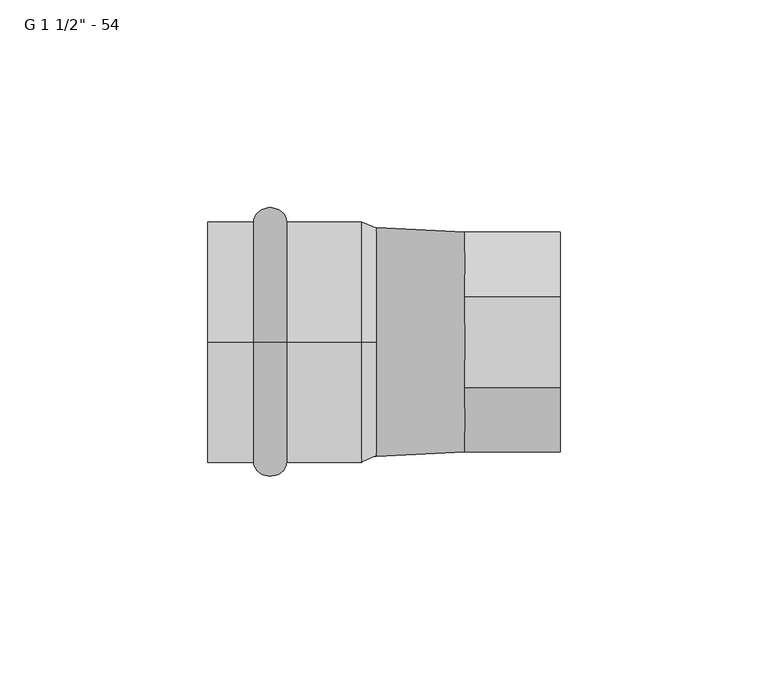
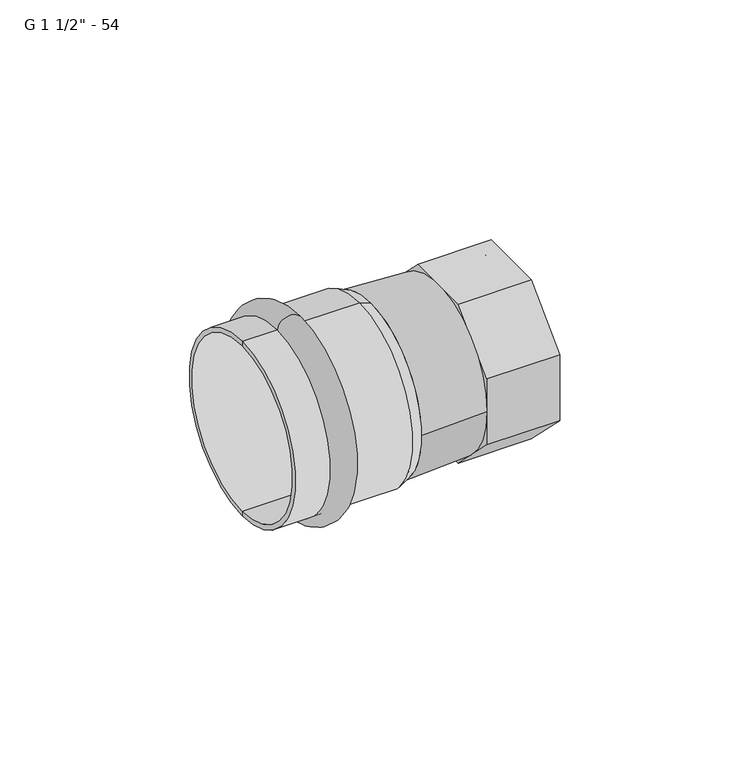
"""IFC4 building model written with IfcOpenShell, lengths in millimetres: pipe fitting geometry."""

import ifcopenshell
import ifcopenshell.guid

model = None  # the IFC model being written
_history = None  # IfcOwnerHistory: only IFC2X3 demands one
_inside = {}  # id of a spatial element -> (the spatial element, [elements in it])
_under = {}  # id of a project, library or spatial element -> (it, [spatial elements below it])
_declared = {}  # id of a project -> (the project, [libraries it declares])
_typed = {}  # id of a type object -> (the type object, [elements of that type])
_made_of = {}  # id of a material, layer set ... -> (it, [elements and type objects made of it])


def new_model(schema):
    """Start an empty IFC model of exactly this schema.

    Asked for "IFC4X3", IfcOpenShell would pick the latest addendum, in which some entities
    have other attributes; the version numbers below select the first issue.
    IFC2X3 requires an IfcOwnerHistory on every rooted entity: one is made here for all.
    """
    global model, _history
    if schema == "IFC4X3":
        model = ifcopenshell.file(schema_version=(4, 3, 0, 0))
    else:
        model = ifcopenshell.file(schema=schema)
    _inside.clear()
    _under.clear()
    _declared.clear()
    _typed.clear()
    _made_of.clear()
    _history = None
    if model.schema == "IFC2X3":
        org = make("IfcOrganization", Name="unknown")
        user = make(
            "IfcPersonAndOrganization",
            ThePerson=make("IfcPerson", FamilyName="unknown"),
            TheOrganization=org,
        )
        app = make(
            "IfcApplication",
            ApplicationDeveloper=org,
            Version="unknown",
            ApplicationFullName="unknown",
            ApplicationIdentifier="unknown",
        )
        _history = make(
            "IfcOwnerHistory",
            OwningUser=user,
            OwningApplication=app,
            ChangeAction="ADDED",
            CreationDate=0,
        )
    return model


def make(cls, **values):
    """One entity of the class cls with the attributes given. An attribute that is None is left unset."""
    return model.create_entity(
        cls, **{name: value for name, value in values.items() if value is not None}
    )


def rooted(cls, **values):
    """An entity with a GlobalId (a new one), such as an element, a storey or a relation."""
    return make(cls, GlobalId=ifcopenshell.guid.new(), OwnerHistory=_history, **values)


def si_unit(unit_type, name, prefix=None):
    """IfcSIUnit, for example si_unit("LENGTHUNIT", "METRE", prefix="MILLI")."""
    return make("IfcSIUnit", UnitType=unit_type, Prefix=prefix, Name=name)


def assignment(units):
    """IfcUnitAssignment: the units of a project."""
    return None if units is None else make("IfcUnitAssignment", Units=units)


def point(xyz):
    """IfcCartesianPoint."""
    return None if xyz is None else make("IfcCartesianPoint", Coordinates=xyz)


def direction(xyz):
    """IfcDirection."""
    return None if xyz is None else make("IfcDirection", DirectionRatios=xyz)


def frame(location, z_axis=None, x_axis=None):
    """IfcAxis2Placement3D, a coordinate frame: its origin and axes. An axis left out is left unset."""
    return make(
        "IfcAxis2Placement3D",
        Location=point(location),
        Axis=direction(z_axis),
        RefDirection=direction(x_axis),
    )


def origin():
    """The frame at (0, 0, 0) with its axes left unset."""
    return frame((0.0, 0.0, 0.0))


def place(relative_to, where):
    """IfcLocalPlacement: puts the frame where relative to a parent placement (None: the world)."""
    return make(
        "IfcLocalPlacement", PlacementRelTo=relative_to, RelativePlacement=where
    )


def context(
    kind, dimensions, precision=None, world=None, true_north=None, identifier=None
):
    """IfcGeometricRepresentationContext, for example the 3D "Model" context."""
    return make(
        "IfcGeometricRepresentationContext",
        ContextIdentifier=identifier,
        ContextType=kind,
        CoordinateSpaceDimension=dimensions,
        Precision=precision,
        WorldCoordinateSystem=world,
        TrueNorth=true_north,
    )


def project(units=None, contexts=None):
    """IfcProject with its units and contexts."""
    return rooted(
        "IfcProject",
        Name="project",
        RepresentationContexts=contexts,
        UnitsInContext=assignment(units),
    )


def spatial(cls, under=None, at=None, **own):
    """A site, building, storey or space (cls), placed at a placement, below another one or the project."""
    s = rooted(cls, ObjectPlacement=at, **own)
    if under is not None:
        _under.setdefault(under.id(), (under, []))[1].append(s)
    return s


def polyline(points):
    """IfcPolyline through the points."""
    return make("IfcPolyline", Points=[point(p) for p in points])


def circle_curve(where, radius):
    """IfcCircle in the frame where."""
    return make("IfcCircle", Position=where, Radius=radius)


def ellipse_curve(where, semi_axis1, semi_axis2):
    """IfcEllipse in the frame where."""
    return make(
        "IfcEllipse", Position=where, SemiAxis1=semi_axis1, SemiAxis2=semi_axis2
    )


def trimmed(basis, trim1, trim2, sense, master):
    """IfcTrimmedCurve: the piece of a basis curve between two trims."""
    return make(
        "IfcTrimmedCurve",
        BasisCurve=basis,
        Trim1=trim1,
        Trim2=trim2,
        SenseAgreement=sense,
        MasterRepresentation=master,
    )


def shape(context_of_items, identifier, shape_type, items):
    """IfcShapeRepresentation: the items that make up one representation, for example the "Body"."""
    return make(
        "IfcShapeRepresentation",
        ContextOfItems=context_of_items,
        RepresentationIdentifier=identifier,
        RepresentationType=shape_type,
        Items=items,
    )


def source(mapping_origin, context_of_items, identifier, shape_type, items):
    """IfcRepresentationMap: a shape defined once, which mapped items show again and again."""
    return make(
        "IfcRepresentationMap",
        MappingOrigin=mapping_origin,
        MappedRepresentation=shape(context_of_items, identifier, shape_type, items),
    )


def transform(
    local_origin,
    x_axis=None,
    y_axis=None,
    z_axis=None,
    scale=None,
    scale2=None,
    scale3=None,
    uniform=True,
):
    """IfcCartesianTransformationOperator3D, or its non-uniform kind. x_axis, y_axis, z_axis: its Axis1, 2, 3."""
    if uniform:
        return make(
            "IfcCartesianTransformationOperator3D",
            Axis1=direction(x_axis),
            Axis2=direction(y_axis),
            LocalOrigin=point(local_origin),
            Scale=scale,
            Axis3=direction(z_axis),
        )
    return make(
        "IfcCartesianTransformationOperator3DnonUniform",
        Axis1=direction(x_axis),
        Axis2=direction(y_axis),
        LocalOrigin=point(local_origin),
        Scale=scale,
        Axis3=direction(z_axis),
        Scale2=scale2,
        Scale3=scale3,
    )


def mapped(mapping_source, mapping_target):
    """IfcMappedItem: shows the shape of a source again, moved by a transform."""
    return make(
        "IfcMappedItem", MappingSource=mapping_source, MappingTarget=mapping_target
    )


def made_of(thing, what):
    """Note that an element or type object is made of a material, layer set ...; save() writes the relation."""
    if what is not None:
        _made_of.setdefault(what.id(), (what, []))[1].append(thing)
    return thing


def element(
    cls,
    number,
    at=None,
    inside=None,
    cuts=None,
    type_object=None,
    material=None,
    context=None,
    identifier="Body",
    shape_type=None,
    held_by="IfcProductDefinitionShape",
    body=None,
    shapes=None,
    **own,
):
    """One element of the class cls, such as IfcWall. Its Tag is "e" and its number.

    at: its placement. inside: the storey or other place that contains it. cuts: it is an
    opening in that element (IfcRelVoidsElement). A single representation is given by context,
    identifier, shape_type and body (its items); several are given by shapes. held_by: the class
    of the entity that holds the representations. save() writes the other relations.
    """
    e = rooted(cls, Tag="e%d" % number, ObjectPlacement=at, **own)
    if body is not None:
        shapes = [shape(context, identifier, shape_type, body)]
    if shapes is not None:
        e.Representation = make(held_by, Representations=shapes)
    if inside is not None:
        _inside.setdefault(inside.id(), (inside, []))[1].append(e)
    if cuts is not None:
        rooted(
            "IfcRelVoidsElement", RelatingBuildingElement=cuts, RelatedOpeningElement=e
        )
    if type_object is not None:
        _typed.setdefault(type_object.id(), (type_object, []))[1].append(e)
    return made_of(e, material)


def aggregate(whole, parts):
    """IfcRelAggregates: a whole, such as a stair, and the parts it consists of."""
    return rooted("IfcRelAggregates", RelatingObject=whole, RelatedObjects=parts)


def save(model, path):
    """Write the relations noted so far, then the file.

    IfcRelAggregates (storeys below a building ...), IfcRelContainedInSpatialStructure (elements
    in a storey), IfcRelDefinesByType, IfcRelAssociatesMaterial and IfcRelDeclares: one each for
    every whole, place, type object, material and project.
    """
    for whole, parts in _under.values():
        aggregate(whole, parts)
    for where, things in _inside.values():
        rooted(
            "IfcRelContainedInSpatialStructure",
            RelatedElements=things,
            RelatingStructure=where,
        )
    for kind, things in _typed.values():
        rooted("IfcRelDefinesByType", RelatedObjects=things, RelatingType=kind)
    for what, things in _made_of.values():
        rooted("IfcRelAssociatesMaterial", RelatedObjects=things, RelatingMaterial=what)
    for by, libraries in _declared.values():
        rooted("IfcRelDeclares", RelatingContext=by, RelatedDefinitions=libraries)
    model.write(path)


def plane_surface(at):
    """IfcPlane: the flat surface through the origin of the frame at, square to its z axis."""
    return make("IfcPlane", Position=at)


def cylinder_surface(at, radius):
    """IfcCylindricalSurface: all points at the distance radius from the z axis of the frame at."""
    return make("IfcCylindricalSurface", Position=at, Radius=radius)


def revolved_surface(curve, axis_point, axis_direction):
    """IfcSurfaceOfRevolution: the curve turned about the line through axis_point along axis_direction."""
    return make(
        "IfcSurfaceOfRevolution",
        SweptCurve=make("IfcArbitraryOpenProfileDef", ProfileType="CURVE", Curve=curve),
        AxisPosition=make("IfcAxis1Placement", Location=point(axis_point), Axis=direction(axis_direction)),
    )


def advanced_brep(points, edges, surfaces, faces):
    """IfcAdvancedBrep: a solid bounded by faces that lie on surfaces and meet in shared edges.

    An edge is (start, end): straight between two places in points (the first is 0);
    or (start, end, curve); or (start, end, curve, False) where it runs against its curve.
    A face is (place in surfaces, loops), or (place, loops, False) where it looks against
    its surface's normal. A loop lists edges by number (the first is 1), with a minus sign
    where the edge is run from its end to its start. The first loop is the outer one.
    """
    corners = [point(p) for p in points]
    vertices = [make("IfcVertexPoint", VertexGeometry=c) for c in corners]
    made = []
    for start, end, *more in edges:
        made.append(
            make(
                "IfcEdgeCurve",
                EdgeStart=vertices[start],
                EdgeEnd=vertices[end],
                EdgeGeometry=more[0] if more else make("IfcPolyline", Points=[corners[start], corners[end]]),
                SameSense=more[1] if len(more) > 1 else True,
            )
        )
    hull = []
    for where, loops, *sense in faces:
        bounds = []
        for j, loop in enumerate(loops):
            ring = [make("IfcOrientedEdge", EdgeElement=made[abs(k) - 1], Orientation=k > 0) for k in loop]
            bounds.append(
                make(
                    "IfcFaceOuterBound" if j == 0 else "IfcFaceBound",
                    Bound=make("IfcEdgeLoop", EdgeList=ring),
                    Orientation=True,
                )
            )
        hull.append(make("IfcAdvancedFace", Bounds=bounds, FaceSurface=surfaces[where], SameSense=sense[0] if sense else True))
    return make("IfcAdvancedBrep", Outer=make("IfcClosedShell", CfsFaces=hull))


def pipe_fitting_c408c730(model_context):
    return source(origin(), model_context, "Body", "AdvancedBrep", [
        advanced_brep(
        [(-26.0, 0.0, 29.0), (-26.0, 0.0, -29.0), (-18.0, 0.0, -29.0), (-18.0, 0.0, 29.0)],
        [
            (0, 1, circle_curve(frame((-26.0, 0.0, 0.0), z_axis=(-1.0, 0.0, 0.0), x_axis=(0.0, 0.0, -1.0)), 29.0)),
            (1, 2),
            (2, 3, circle_curve(frame((-18.0, 0.0, 0.0), z_axis=(1.0, 0.0, 0.0), x_axis=(0.0, 0.0, -1.0)), 29.0)),
            (3, 0),
            (1, 0, circle_curve(frame((-26.0, 0.0, 0.0), z_axis=(-1.0, 0.0, 0.0), x_axis=(0.0, 0.0, -1.0)), 29.0)),
            (3, 2, circle_curve(frame((-18.0, 0.0, 0.0), z_axis=(1.0, 0.0, 0.0), x_axis=(0.0, 0.0, -1.0)), 29.0)),
            (2, 1, ellipse_curve(frame((-22.0, 0.0, -29.0), z_axis=(0.0, 1.0, 0.0), x_axis=(-1.0, 0.0, 0.0)), 4.0, 3.5)),
            (0, 3, ellipse_curve(frame((-22.0, 0.0, 29.0), z_axis=(0.0, 1.0, 0.0), x_axis=(-1.0, 0.0, 0.0)), 4.0, 3.5)),
        ],
        [
            revolved_surface(polyline([(-18.0, 0.0, -29.0), (-26.0, 0.0, -29.0)]), (4.0, 0.0, 0.0), (1.0, 0.0, 0.0)),
            revolved_surface(trimmed(ellipse_curve(frame((-22.0, 0.0, -29.0), z_axis=(0.0, -1.0, 0.0), x_axis=(-1.0, 0.0, 0.0)), 4.0, 3.5), [point((-26.0, 0.0, -29.0))], [point((-18.0, 0.0, -29.0))], True, "CARTESIAN"), (4.0, 0.0, 0.0), (1.0, 0.0, 0.0)),
        ],
        [
            (0, [[1, 2, 3, 4]]),
            (0, [[5, -4, 6, -2]]),
            (1, [[-3, 7, -1, 8]]),
            (1, [[-6, -8, -5, -7]]),
        ],
    ),
        advanced_brep(
        [(3.5337785, 0.0, 27.5), (3.5337785, 0.0, -27.5), (0.0, 0.0, -29.0), (0.0, 0.0, 29.0), (-37.0, 0.0, 27.5), (-37.0, 0.0, -27.5), (-37.0, 0.0, 29.0), (-37.0, 0.0, -29.0)],
        [
            (0, 1, circle_curve(frame((3.5337785, 0.0, 0.0), z_axis=(-1.0, 0.0, 0.0), x_axis=(0.0, 0.0, -1.0)), 27.5)),
            (1, 2),
            (2, 3, circle_curve(frame((0.0, 0.0, 0.0), z_axis=(1.0, 0.0, 0.0), x_axis=(0.0, 0.0, -1.0)), 29.0)),
            (3, 0),
            (1, 0, circle_curve(frame((3.5337785, 0.0, 0.0), z_axis=(-1.0, 0.0, 0.0), x_axis=(0.0, 0.0, -1.0)), 27.5)),
            (3, 2, circle_curve(frame((0.0, 0.0, 0.0), z_axis=(1.0, 0.0, 0.0), x_axis=(0.0, 0.0, -1.0)), 29.0)),
            (4, 5, circle_curve(frame((-37.0, 0.0, 0.0), z_axis=(-1.0, 0.0, 0.0), x_axis=(0.0, 0.0, -1.0)), 27.5)),
            (5, 1),
            (0, 4),
            (5, 4, circle_curve(frame((-37.0, 0.0, 0.0), z_axis=(-1.0, 0.0, 0.0), x_axis=(0.0, 0.0, -1.0)), 27.5)),
            (6, 7, circle_curve(frame((-37.0, 0.0, 0.0), z_axis=(-1.0, 0.0, 0.0), x_axis=(0.0, 0.0, -1.0)), 29.0)),
            (7, 5),
            (4, 6),
            (7, 6, circle_curve(frame((-37.0, 0.0, 0.0), z_axis=(-1.0, 0.0, 0.0), x_axis=(0.0, 0.0, -1.0)), 29.0)),
            (2, 7),
            (6, 3),
        ],
        [
            revolved_surface(polyline([(0.0, 0.0, -29.0), (3.5337785, 0.0, -27.5)]), (4.0, 0.0, 0.0), (1.0, 0.0, 0.0)),
            revolved_surface(polyline([(3.5337785, 0.0, -27.5), (-37.0, 0.0, -27.5)]), (4.0, 0.0, 0.0), (1.0, 0.0, 0.0)),
            plane_surface(frame((-37.0, 0.0, 0.0), z_axis=(-1.0, 0.0, 0.0), x_axis=(0.0, 0.0, -1.0))),
            cylinder_surface(frame((4.0, 0.0, 0.0), z_axis=(1.0, 0.0, 0.0), x_axis=(0.0, 0.0, -1.0)), 29.0),
        ],
        [
            (0, [[1, 2, 3, 4]]),
            (0, [[5, -4, 6, -2]]),
            (1, [[7, 8, -1, 9]]),
            (1, [[10, -9, -5, -8]]),
            (2, [[11, 12, -7, 13]]),
            (2, [[14, -13, -10, -12]]),
            (3, [[-3, 15, -11, 16]]),
            (3, [[-6, -16, -14, -15]]),
        ],
    ),
        advanced_brep(
        [(24.7337785, -26.5, 0.0), (24.7337785, 26.5, 0.0), (3.5337785, -27.5, 0.0), (3.5337785, 27.5, 0.0)],
        [
            (0, 1, circle_curve(frame((24.7337785, 0.0, 0.0), z_axis=(1.0, 0.0, 0.0), x_axis=(0.0, -1.0, 0.0)), 26.5)),
            (1, 0, circle_curve(frame((24.7337785, 0.0, 0.0), z_axis=(1.0, 0.0, 0.0), x_axis=(0.0, 1.0, 0.0)), 26.5)),
            (2, 3, circle_curve(frame((3.5337785, 0.0, 0.0), z_axis=(-1.0, 0.0, 0.0), x_axis=(0.0, 1.0, 0.0)), 27.5)),
            (3, 2, circle_curve(frame((3.5337785, 0.0, 0.0), z_axis=(-1.0, 0.0, 0.0), x_axis=(0.0, -1.0, 0.0)), 27.5)),
            (3, 1),
            (0, 2),
        ],
        [
            plane_surface(frame((24.7337785, 0.0, 0.0), z_axis=(1.0, 0.0, 0.0), x_axis=(0.0, 0.0, -1.0))),
            plane_surface(frame((3.5337785, 0.0, 0.0), z_axis=(-1.0, 0.0, 0.0), x_axis=(0.0, 0.0, -1.0))),
            revolved_surface(polyline([(24.73377849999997, -26.500000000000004, 0.0), (3.5337785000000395, -27.5, 0.0)]), (586.5337785, 0.0, 0.0), (-1.0, 0.0, 0.0)),
            revolved_surface(polyline([(24.73377849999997, 26.500000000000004, 0.0), (3.5337785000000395, 27.5, 0.0)]), (586.5337785, 0.0, 0.0), (-1.0, 0.0, 0.0)),
        ],
        [
            (0, [[1, 2]]),
            (1, [[3, 4]]),
            (2, [[-4, 5, -1, 6]]),
            (3, [[-3, -6, -2, -5]]),
        ],
    ),
        advanced_brep(
        [(24.7337785, -6.8345238, -16.5), (24.7337785, -16.5, -6.8345238), (30.7337785, -16.5, -6.8345238), (30.7337785, -6.8345238, -16.5), (47.7337785, -26.5, -10.9766594), (24.7337785, -26.5, -10.9766594), (24.7337785, -10.9766594, -26.5), (47.7337785, -10.9766594, -26.5), (24.7337785, 6.8345238, -16.5), (30.7337785, 6.8345238, -16.5), (24.7337785, 10.9766594, -26.5), (47.7337785, 10.9766594, -26.5), (24.7337785, 6.8345238, 16.5), (24.7337785, 16.5, 6.8345238), (30.7337785, 16.5, 6.8345238), (30.7337785, 6.8345238, 16.5), (47.7337785, 26.5, 10.9766594), (24.7337785, 26.5, 10.9766594), (24.7337785, 10.9766594, 26.5), (47.7337785, 10.9766594, 26.5), (24.7337785, -6.8345238, 16.5), (30.7337785, -6.8345238, 16.5), (24.7337785, -10.9766594, 26.5), (47.7337785, -10.9766594, 26.5), (24.7337785, 16.5, -6.8345238), (30.7337785, 16.5, -6.8345238), (24.7337785, 26.5, -10.9766594), (47.7337785, 26.5, -10.9766594), (24.7337785, -16.5, 6.8345238), (30.7337785, -16.5, 6.8345238), (24.7337785, -26.5, 10.9766594), (47.7337785, -26.5, 10.9766594), (30.7337785, -24.0, 0.0), (30.7337785, 24.0, 0.0), (47.7337785, 24.0, 0.0), (47.7337785, -24.0, 0.0)],
        [
            (0, 1),
            (1, 2),
            (2, 3),
            (3, 0),
            (4, 5),
            (5, 6),
            (6, 7),
            (7, 4),
            (8, 0),
            (3, 9),
            (9, 8),
            (6, 10),
            (10, 11),
            (11, 7),
            (12, 13),
            (13, 14),
            (14, 15),
            (15, 12),
            (16, 17),
            (17, 18),
            (18, 19),
            (19, 16),
            (20, 12),
            (15, 21),
            (21, 20),
            (18, 22),
            (22, 23),
            (23, 19),
            (24, 8),
            (9, 25),
            (25, 24),
            (10, 26),
            (26, 27),
            (27, 11),
            (28, 20),
            (21, 29),
            (29, 28),
            (22, 30),
            (30, 31),
            (31, 23),
            (32, 33, circle_curve(frame((30.7337785, 0.0, 0.0), z_axis=(1.0, 0.0, 0.0), x_axis=(0.0, 1.0, 0.0)), 24.0)),
            (33, 32, circle_curve(frame((30.7337785, 0.0, 0.0), z_axis=(1.0, 0.0, 0.0), x_axis=(0.0, 1.0, 0.0)), 24.0)),
            (2, 29),
            (14, 25),
            (33, 34),
            (34, 35, circle_curve(frame((47.7337785, 0.0, 0.0), z_axis=(1.0, 0.0, 0.0), x_axis=(0.0, 1.0, 0.0)), 24.0)),
            (35, 32),
            (35, 34, circle_curve(frame((47.7337785, 0.0, 0.0), z_axis=(1.0, 0.0, 0.0), x_axis=(0.0, 1.0, 0.0)), 24.0)),
            (13, 24),
            (16, 27),
            (26, 17),
            (31, 4),
            (1, 28),
            (5, 30),
        ],
        [
            plane_surface(frame((47.7337785, -16.5, -6.8345238), z_axis=(0.0, 0.7071067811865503, 0.7071067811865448), x_axis=(0.0, 0.7071067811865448, -0.7071067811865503))),
            plane_surface(frame((24.7337785, -26.5, -10.9766594), z_axis=(0.0, -0.7071067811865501, -0.7071067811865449), x_axis=(0.0, 0.7071067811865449, -0.7071067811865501))),
            plane_surface(frame((47.7337785, -6.8345238, -16.5), z_axis=(0.0, 0.0, 1.0), x_axis=(0.0, 1.0, 0.0))),
            plane_surface(frame((24.7337785, -10.9766594, -26.5), z_axis=(0.0, 0.0, -1.0), x_axis=(0.0, 1.0, 0.0))),
            plane_surface(frame((47.7337785, 16.5, 6.8345238), z_axis=(0.0, -0.707106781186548, -0.707106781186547), x_axis=(0.0, -0.707106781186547, 0.707106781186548))),
            plane_surface(frame((24.7337785, 26.5, 10.9766594), z_axis=(0.0, 0.707106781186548, 0.7071067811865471), x_axis=(0.0, -0.7071067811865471, 0.707106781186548))),
            plane_surface(frame((47.7337785, 6.8345238, 16.5), z_axis=(0.0, 0.0, -1.0), x_axis=(0.0, -1.0, 0.0))),
            plane_surface(frame((24.7337785, 10.9766594, 26.5), z_axis=(0.0, 0.0, 1.0), x_axis=(0.0, -1.0, 0.0))),
            plane_surface(frame((47.7337785, 6.8345238, -16.5), z_axis=(0.0, -0.7071067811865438, 0.7071067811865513), x_axis=(0.0, 0.7071067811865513, 0.7071067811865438))),
            plane_surface(frame((24.7337785, 10.9766594, -26.5), z_axis=(0.0, 0.7071067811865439, -0.7071067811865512), x_axis=(0.0, 0.7071067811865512, 0.7071067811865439))),
            plane_surface(frame((47.7337785, -6.8345238, 16.5), z_axis=(0.0, 0.7071067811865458, -0.7071067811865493), x_axis=(0.0, -0.7071067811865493, -0.7071067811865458))),
            plane_surface(frame((24.7337785, -10.9766594, 26.5), z_axis=(0.0, -0.7071067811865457, 0.7071067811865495), x_axis=(0.0, -0.7071067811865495, -0.7071067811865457))),
            plane_surface(frame((30.7337785, 24.0, 0.0), z_axis=(1.0, 0.0, 0.0), x_axis=(0.0, 0.0, -1.0))),
            revolved_surface(polyline([(47.7337785, 24.0, 0.0), (30.7337785, 24.0, 0.0)]), (30.7337785, 0.0, 0.0), (1.0, 0.0, 0.0)),
            plane_surface(frame((47.7337785, 16.5, -6.8345238), z_axis=(0.0, -1.0, 0.0), x_axis=(0.0, 0.0, 1.0))),
            plane_surface(frame((24.7337785, 26.5, -10.9766594), z_axis=(0.0, 1.0, 0.0), x_axis=(0.0, 0.0, 1.0))),
            plane_surface(frame((47.7337785, -26.5, 10.9766594), z_axis=(1.0, 0.0, 0.0), x_axis=(0.0, 0.0, -1.0))),
            plane_surface(frame((47.7337785, -16.5, 6.8345238), z_axis=(0.0, 1.0, 0.0), x_axis=(0.0, 0.0, -1.0))),
            plane_surface(frame((24.7337785, -16.5, 6.8345238), z_axis=(-1.0, 0.0, 0.0), x_axis=(0.0, 0.0, -1.0))),
            plane_surface(frame((24.7337785, -26.5, 10.9766594), z_axis=(0.0, -1.0, 0.0), x_axis=(0.0, 0.0, -1.0))),
        ],
        [
            (0, [[1, 2, 3, 4]]),
            (1, [[5, 6, 7, 8]]),
            (2, [[9, -4, 10, 11]]),
            (3, [[-7, 12, 13, 14]]),
            (4, [[15, 16, 17, 18]]),
            (5, [[19, 20, 21, 22]]),
            (6, [[23, -18, 24, 25]]),
            (7, [[-21, 26, 27, 28]]),
            (8, [[29, -11, 30, 31]]),
            (9, [[-13, 32, 33, 34]]),
            (10, [[35, -25, 36, 37]]),
            (11, [[-27, 38, 39, 40]]),
            (12, [[41, 42], [-3, 43, -36, -24, -17, 44, -30, -10]]),
            (13, [[-42, 45, 46, 47]]),
            (13, [[-41, -47, 48, -45]]),
            (14, [[49, -31, -44, -16]]),
            (15, [[-19, 50, -33, 51]]),
            (16, [[-8, -14, -34, -50, -22, -28, -40, 52], [-46, -48]]),
            (17, [[53, -37, -43, -2]]),
            (18, [[-6, 54, -38, -26, -20, -51, -32, -12], [-1, -9, -29, -49, -15, -23, -35, -53]]),
            (19, [[-5, -52, -39, -54]]),
        ],
    ),
    ])


if __name__ == "__main__":
    model = new_model("IFC4")
    model_context = context("Model", 3, world=origin())
    ifc_project = project(units=[si_unit("LENGTHUNIT", "METRE", prefix="MILLI")], contexts=[model_context])
    site = spatial("IfcSite", under=ifc_project)
    building = spatial("IfcBuilding", under=site)
    placement = place(None, origin())
    pipe_fitting_shape = pipe_fitting_c408c730(model_context)
    element("IfcPipeFitting", 1, ObjectType="РЕХАУ_Пресс Муфта с накидной гайкой : G 1 1/2\" - 54", at=placement, inside=building, context=model_context, shape_type="MappedRepresentation", body=[
        mapped(pipe_fitting_shape, transform((0.0, 0.0, 0.0), x_axis=(1.0, 0.0, 0.0), y_axis=(0.0, 1.0, 0.0), z_axis=(0.0, 0.0, 1.0))),
    ])
    save(model, "model.ifc")
